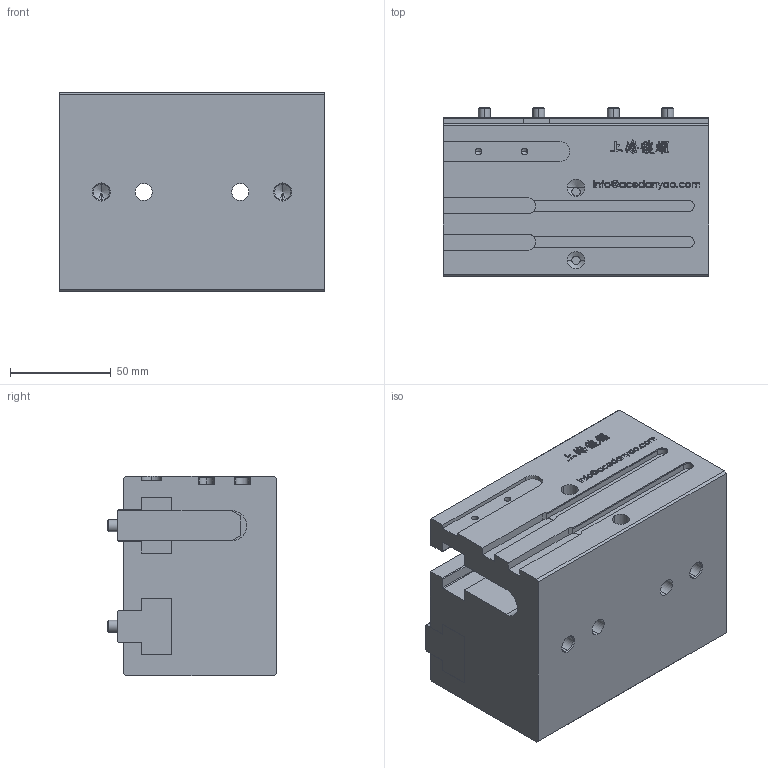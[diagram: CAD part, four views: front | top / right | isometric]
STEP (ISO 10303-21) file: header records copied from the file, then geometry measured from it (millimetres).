
FILE_DESCRIPTION (( 'STEP AP203' ), '1' );
FILE_NAME ('GPL40-40-原始檔-組合-W106.04.18.STEP', '2017-04-17T09:18:19', ( 'DanyaoCAD' ), ( '' ), 'SwSTEP 2.0', 'SolidWorks 2016', '' );
FILE_SCHEMA (( 'CONFIG_CONTROL_DESIGN' ));
Length unit declared in the file: millimetre
Products named in the file (3): Griffa; Corpo; GPL40-40-原始檔-組合-W106.04.18
Assembly tree (3 placements, depth 2):
  GPL40-40-原始檔-組合-W106.04.18
    Griffa  x2
    Corpo
Bounding box: 132 x 84 x 99 mm (x, y, z)
Volume: 884679.8 mm3; surface area: 119991.4 mm2
Topology: 3 solids, 3 shells, 1013 faces, 2821 edges, 1858 vertices
Faces by surface type: bspline 640, plane 271, cylinder 66, cone 36
Entity records: 47402 total; most frequent: CARTESIAN_POINT 26629, ORIENTED_EDGE 5374, EDGE_CURVE 2687, DIRECTION 2195, VERTEX_POINT 1785, B_SPLINE_CURVE_WITH_KNOTS 1284, LINE 1273, VECTOR 1273
